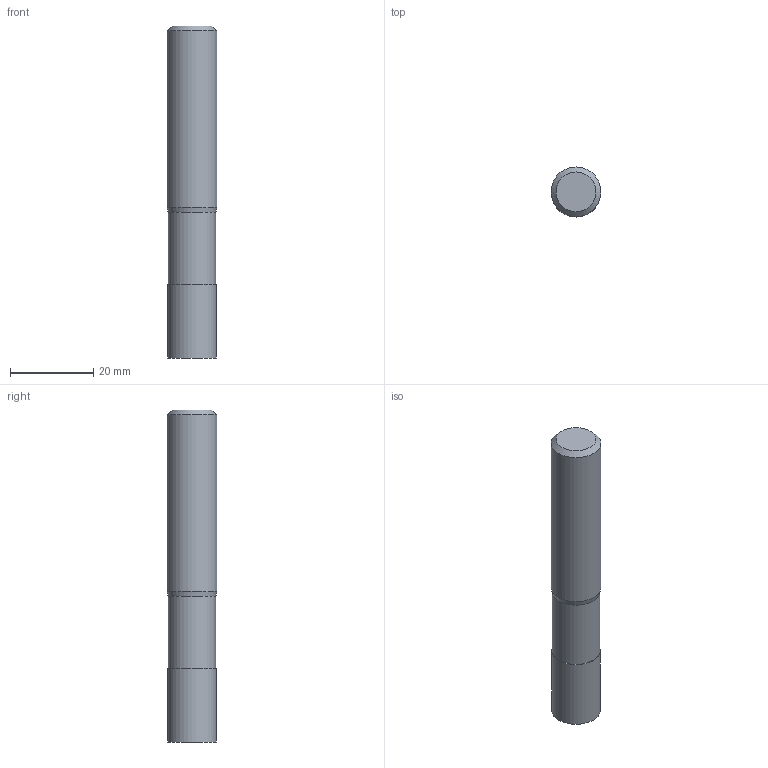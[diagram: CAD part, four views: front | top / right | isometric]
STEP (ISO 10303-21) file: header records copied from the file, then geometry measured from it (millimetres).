
FILE_DESCRIPTION((''),'2;1');
FILE_NAME('C:\Users\nsx150\AppData\Local\Temp\Mastercam 2021\EUJSUNXURU\TEMP.step','2021-04-22T10:30:24',(''),(''),'STEP Write','Mastercam 2021 ... CNC Software, Inc.','');
FILE_SCHEMA(('AUTOMOTIVE_DESIGN'));
Length unit declared in the file: millimetre
Products named in the file (1): None
Bounding box: 12 x 12 x 80 mm (x, y, z)
Volume: 8757.2 mm3; surface area: 3375.5 mm2
Topology: 2 solids, 2 shells, 9 faces, 12 edges, 7 vertices
Faces by surface type: plane 4, cylinder 3, cone 2
Full cylindrical faces by diameter (mm): 11.5 x1, 11.7 x1, 12 x1
Entity records: 211 total; most frequent: DIRECTION 36, CARTESIAN_POINT 25, AXIS2_PLACEMENT_3D 18, ORIENTED_EDGE 14, EDGE_LOOP 14, STYLED_ITEM 12, ADVANCED_FACE 9, FACE_BOUND 8
